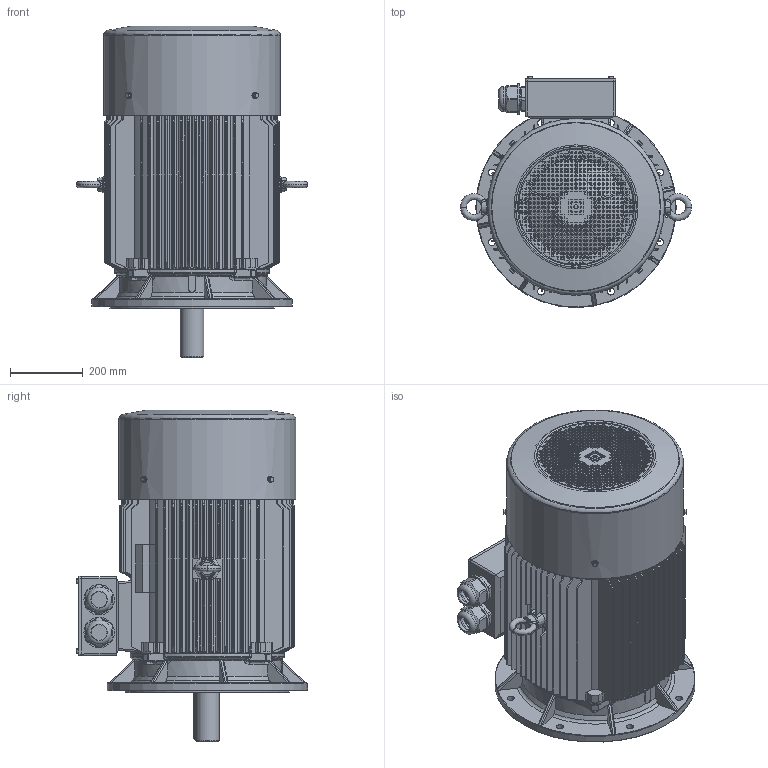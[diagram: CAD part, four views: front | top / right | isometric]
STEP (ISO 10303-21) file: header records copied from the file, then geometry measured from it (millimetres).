
FILE_DESCRIPTION(/* description */ (''),/* implementation_level */ '2;1');
FILE_NAME(/* name */ 'FCM-250M2-4-75kW-B5-IE2.stp',/* time_stamp */ '2017-06-29T15:27:27+08:00',/* author */ (''),/* organization */ (''),/* preprocessor_version */ 'ST-DEVELOPER v16',/* originating_system */ 'SIEMENS PLM Software NX 10.0',/* authorisation */ '');
FILE_SCHEMA (('CONFIG_CONTROL_DESIGN'));
Length unit declared in the file: millimetre
Products named in the file (1): JM1-250M-4.6.8-B5
Bounding box: 634.8 x 633.8 x 910.08 mm (x, y, z)
Volume: 28505664.6 mm3; surface area: 6291793.8 mm2
Topology: 67 solids, 67 shells, 5706 faces, 15674 edges, 10266 vertices
Faces by surface type: plane 3746, cylinder 1043, cone 371, bspline 287, torus 241, sphere 18
Full cylindrical faces by diameter (mm): 7.188 x4, 8 x8, 8.4 x4, 9.026 x8, 10 x8, 10.863 x12, 11.2 x8, 12 x12, 12.6 x12, 16 x4, 20 x1, 43.312 x2, 51.188 x4, 61.031 x12, 63 x4, 64 x1, 64.969 x12, 65 x1, 67.922 x2, 69 x1, 70 x4, 83.672 x2, 90 x4, 400 x1, 481 x1, 485 x1, 550 x1
Entity records: 202219 total; most frequent: CARTESIAN_POINT 59471, ORIENTED_EDGE 30514, DIRECTION 26699, EDGE_CURVE 15257, LINE 10489, VECTOR 10489, VERTEX_POINT 10143, AXIS2_PLACEMENT_3D 8105
